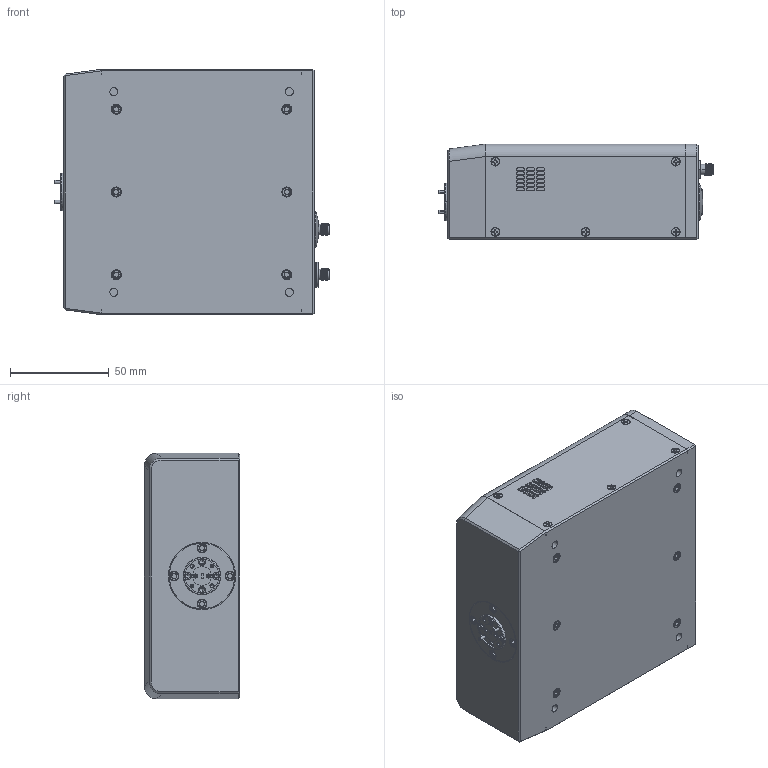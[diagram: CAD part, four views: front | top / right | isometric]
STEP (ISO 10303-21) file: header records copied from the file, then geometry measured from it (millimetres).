
FILE_DESCRIPTION (( 'STEP AP214' ), '1' );
FILE_NAME ('TC-F-A, Mountable.STEP', '2024-05-20T19:55:31', ( '' ), ( '' ), 'SwSTEP 2.0', 'SolidWorks 2021', '' );
FILE_SCHEMA (( 'AUTOMOTIVE_DESIGN' ));
Length unit declared in the file: inch
Products named in the file (1): TC-F-A, Mountable
Bounding box: 139.21 x 48.26 x 124.32 mm (x, y, z)
Volume: 753582.5 mm3; surface area: 60865.9 mm2
Topology: 9 solids, 21 shells, 1531 faces, 3856 edges, 2480 vertices
Faces by surface type: plane 797, cylinder 453, cone 262, bspline 16, torus 2, sphere 1
Entity records: 65901 total; most frequent: CARTESIAN_POINT 11582, ORIENTED_EDGE 7668, DIRECTION 7374, EDGE_CURVE 3834, AXIS2_PLACEMENT_3D 2685, VERTEX_POINT 2479, VECTOR 2004, LINE 2004
